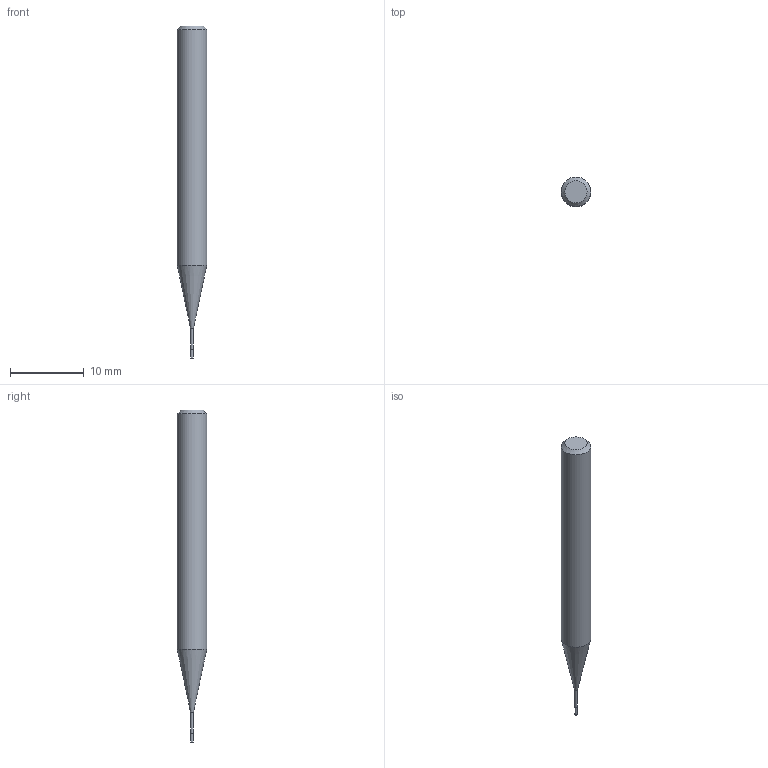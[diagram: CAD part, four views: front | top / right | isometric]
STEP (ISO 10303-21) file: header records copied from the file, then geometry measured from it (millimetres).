
FILE_DESCRIPTION((''),'2;1');
FILE_NAME('C:\Users\nsx150\Desktop\RSE230_20210427\01-00644-00404 RSE230 D0_4X1_2X4.step','2021-05-07T14:52:39',(''),(''),'STEP Write','Mastercam 2021 ... CNC Software, Inc.','');
FILE_SCHEMA(('AUTOMOTIVE_DESIGN'));
Length unit declared in the file: millimetre
Products named in the file (1): None
Bounding box: 4 x 4 x 45 mm (x, y, z)
Volume: 446.3 mm3; surface area: 481.5 mm2
Topology: 2 solids, 2 shells, 9 faces, 12 edges, 7 vertices
Faces by surface type: plane 4, cylinder 3, cone 2
Full cylindrical faces by diameter (mm): 0.37 x1, 0.4 x1, 4 x1
Entity records: 211 total; most frequent: DIRECTION 36, CARTESIAN_POINT 25, AXIS2_PLACEMENT_3D 18, ORIENTED_EDGE 14, EDGE_LOOP 14, STYLED_ITEM 12, ADVANCED_FACE 9, FACE_BOUND 8
